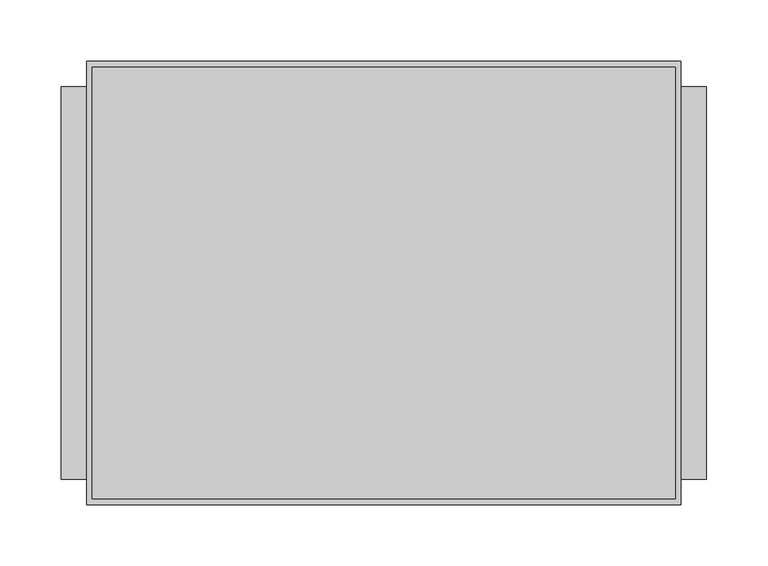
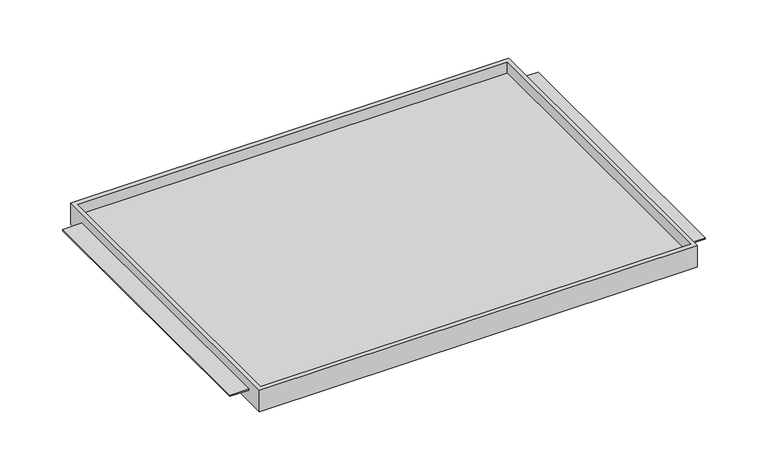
"""IFC4 building model written with IfcOpenShell, lengths in millimetres: furniture geometry."""

from ifc_helpers import new_model, si_unit, origin, place, context, project, spatial, faceted_brep, source, transform, mapped, element, save


def furniture_ea2e2551(model_context):
    return source(origin(), model_context, "Body", "Brep", [
        faceted_brep([(-242.7689646, -180.975, 889.0), (242.7689646, -180.975, 889.0), (242.7689646, -180.975, 914.4), (-242.7689646, -180.975, 914.4), (-242.7689646, 180.975, 889.0), (-242.7689646, 180.975, 914.4), (242.7689646, 180.975, 914.4), (242.7689646, 180.975, 889.0), (242.7689646, -160.3374879, 903.3002), (242.7689646, 160.3374879, 903.3002), (242.7689646, 160.3374879, 901.7), (242.7689646, -160.3374879, 901.7), (238.125, -176.2125, 914.4), (-238.125, -176.2125, 914.4), (-238.125, 175.91278, 914.4), (238.125, 175.91278, 914.4), (-242.7689646, 160.3374879, 903.3002), (-242.7689646, -160.3374879, 903.3002), (-242.7689646, -160.3374879, 901.7), (-242.7689646, 160.3374879, 901.7), (-238.125, -176.2125, 901.7), (238.125, -176.2125, 901.7), (238.125, 175.91278, 901.7), (-238.125, 175.91278, 901.7), (-263.525, 160.3374879, 903.3002), (-263.525, -160.3374879, 903.3002), (263.525, -160.3374879, 903.3002), (263.525, 160.3374879, 903.3002), (-263.525, -160.3374879, 901.7), (-263.525, 160.3374879, 901.7), (263.525, -160.3374879, 901.7), (263.525, 160.3374879, 901.7)], [[[0, 1, 2, 3]], [[4, 5, 6, 7]], [[1, 0, 4, 7]], [[2, 1, 7, 6], [8, 9, 10, 11]], [[3, 2, 6, 5], [12, 13, 14, 15]], [[0, 3, 5, 4], [16, 17, 18, 19]], [[20, 21, 22, 23]], [[21, 20, 13, 12]], [[22, 21, 12, 15]], [[23, 22, 15, 14]], [[20, 23, 14, 13]], [[16, 24, 25, 17]], [[26, 27, 9, 8]], [[18, 28, 29, 19]], [[30, 11, 10, 31]], [[24, 16, 19, 29]], [[25, 24, 29, 28]], [[17, 25, 28, 18]], [[27, 26, 30, 31]], [[9, 27, 31, 10]], [[26, 8, 11, 30]]]),
    ])


if __name__ == "__main__":
    model = new_model("IFC4")
    model_context = context("Model", 3, world=origin())
    ifc_project = project(units=[si_unit("LENGTHUNIT", "METRE", prefix="MILLI")], contexts=[model_context])
    site = spatial("IfcSite", under=ifc_project)
    building = spatial("IfcBuilding", under=site)
    placement = place(None, origin())
    furniture_shape = furniture_ea2e2551(model_context)
    element("IfcFurniture", 1, ObjectType="HermanMiller_CoStruc_CO203_CTrayShelf : 14\"D x 20\"W", at=placement, inside=building, context=model_context, shape_type="MappedRepresentation", body=[
        mapped(furniture_shape, transform((0.0, 0.0, 0.0), x_axis=(1.0, 0.0, 0.0), y_axis=(0.0, 1.0, 0.0), z_axis=(0.0, 0.0, 1.0))),
    ])
    save(model, "model.ifc")
